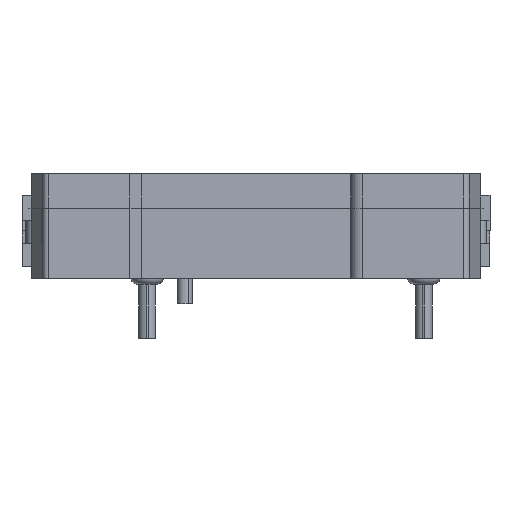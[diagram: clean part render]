
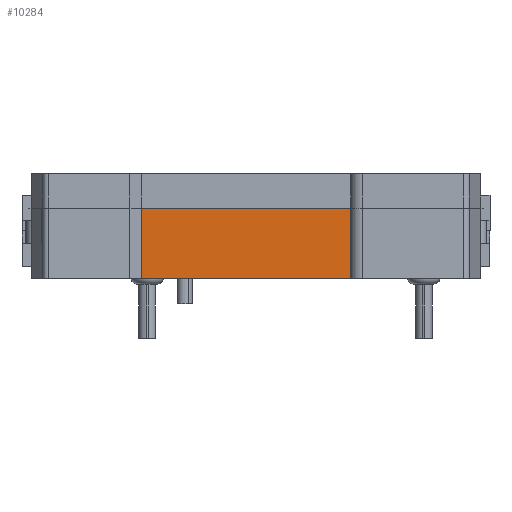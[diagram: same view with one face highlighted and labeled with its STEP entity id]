
A CAD part, front view. The second image highlights one B-rep face of the part: STEP entity #10284.
In plain terms, the highlighted planar face has unit normal (0, -1, 0).
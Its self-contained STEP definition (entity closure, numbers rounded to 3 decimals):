
#851 = PLANE ( 'NONE',  #14650 ) ;
#878 = VECTOR ( 'NONE', #9412, 1000. ) ;
#2291 = CARTESIAN_POINT ( 'NONE',  ( 26.2, -55.95, 0. ) ) ;
#2628 = VERTEX_POINT ( 'NONE', #15230 ) ;
#2940 = LINE ( 'NONE', #5250, #6205 ) ;
#4220 = DIRECTION ( 'NONE',  ( 0., 0., 1. ) ) ;
#4272 = EDGE_LOOP ( 'NONE', ( #10953, #16634, #13932, #4911 ) ) ;
#4911 = ORIENTED_EDGE ( 'NONE', *, *, #13190, .T. ) ;
#5250 = CARTESIAN_POINT ( 'NONE',  ( -11., -55.95, 0. ) ) ;
#6018 = FACE_OUTER_BOUND ( 'NONE', #4272, .T. ) ;
#6205 = VECTOR ( 'NONE', #15631, 1000. ) ;
#6843 = CARTESIAN_POINT ( 'NONE',  ( 26.2, -55.95, -12. ) ) ;
#7007 = LINE ( 'NONE', #6843, #15189 ) ;
#7244 = VECTOR ( 'NONE', #9140, 1000. ) ;
#7484 = DIRECTION ( 'NONE',  ( 0., 0., -1. ) ) ;
#7555 = CARTESIAN_POINT ( 'NONE',  ( 26.2, -55.95, -12. ) ) ;
#7970 = CARTESIAN_POINT ( 'NONE',  ( -11., -55.95, -12. ) ) ;
#8019 = VERTEX_POINT ( 'NONE', #7555 ) ;
#9140 = DIRECTION ( 'NONE',  ( 1., 0., 0. ) ) ;
#9412 = DIRECTION ( 'NONE',  ( 0., 0., 1. ) ) ;
#10284 = ADVANCED_FACE ( 'NONE', ( #6018 ), #851, .T. ) ;
#10953 = ORIENTED_EDGE ( 'NONE', *, *, #11986, .F. ) ;
#11477 = LINE ( 'NONE', #7970, #878 ) ;
#11494 = LINE ( 'NONE', #14360, #7244 ) ;
#11948 = VERTEX_POINT ( 'NONE', #13030 ) ;
#11986 = EDGE_CURVE ( 'NONE', #11948, #12362, #2940, .T. ) ;
#12121 = EDGE_CURVE ( 'NONE', #2628, #11948, #11477, .T. ) ;
#12362 = VERTEX_POINT ( 'NONE', #2291 ) ;
#12536 = EDGE_CURVE ( 'NONE', #2628, #8019, #11494, .T. ) ;
#13030 = CARTESIAN_POINT ( 'NONE',  ( -11., -55.95, 0. ) ) ;
#13190 = EDGE_CURVE ( 'NONE', #8019, #12362, #7007, .T. ) ;
#13932 = ORIENTED_EDGE ( 'NONE', *, *, #12536, .T. ) ;
#13958 = DIRECTION ( 'NONE',  ( 0., -1., 0. ) ) ;
#14360 = CARTESIAN_POINT ( 'NONE',  ( -11., -55.95, -12. ) ) ;
#14650 = AXIS2_PLACEMENT_3D ( 'NONE', #16430, #13958, #7484 ) ;
#15189 = VECTOR ( 'NONE', #4220, 1000. ) ;
#15230 = CARTESIAN_POINT ( 'NONE',  ( -11., -55.95, -12. ) ) ;
#15631 = DIRECTION ( 'NONE',  ( 1., 0., 0. ) ) ;
#16430 = CARTESIAN_POINT ( 'NONE',  ( -11., -55.95, -12. ) ) ;
#16634 = ORIENTED_EDGE ( 'NONE', *, *, #12121, .F. ) ;
